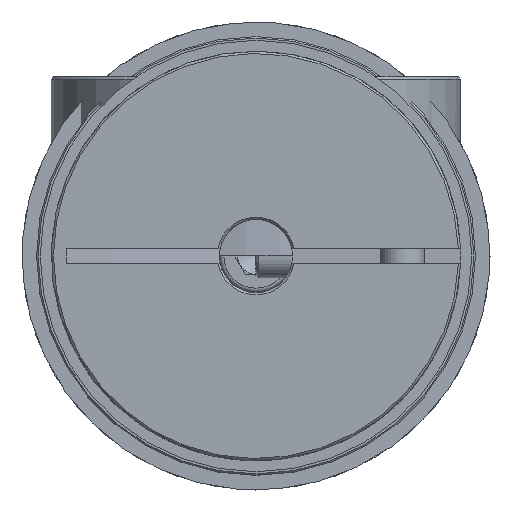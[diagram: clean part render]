
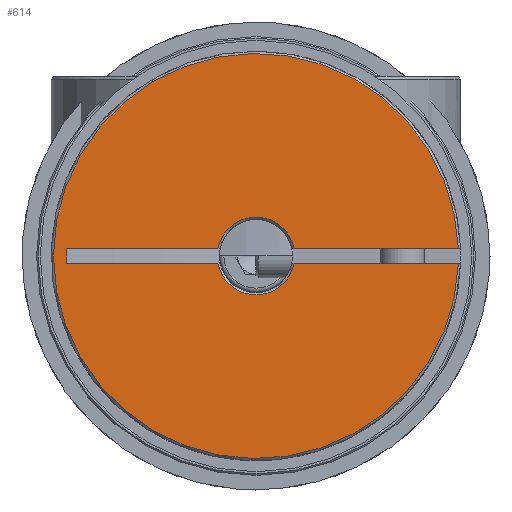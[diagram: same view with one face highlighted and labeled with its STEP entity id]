
A CAD part, left-side view. The second image highlights one B-rep face of the part: STEP entity #614.
In plain terms, the highlighted planar face has unit normal (-1, 0, 0) as drawn and (0, 0, 1) by its records, which use the part's own axes.
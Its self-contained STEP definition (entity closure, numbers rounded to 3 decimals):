
#614 = ADVANCED_FACE( 'NONE', ( #1127 ), #1128, .T. );
#1127 = FACE_OUTER_BOUND( '', #1587, .T. );
#1128 = PLANE( '', #1588 );
#1587 = EDGE_LOOP( '', ( #2505, #2506, #2507, #2508, #2509, #2510, #2511, #2512 ) );
#1588 = AXIS2_PLACEMENT_3D( '', #2513, #2514, #2515 );
#2505 = ORIENTED_EDGE( '', *, *, #2931, .F. );
#2506 = ORIENTED_EDGE( '', *, *, #2884, .T. );
#2507 = ORIENTED_EDGE( '', *, *, #2930, .T. );
#2508 = ORIENTED_EDGE( '', *, *, #2925, .T. );
#2509 = ORIENTED_EDGE( '', *, *, #2927, .T. );
#2510 = ORIENTED_EDGE( '', *, *, #2929, .F. );
#2511 = ORIENTED_EDGE( '', *, *, #2917, .F. );
#2512 = ORIENTED_EDGE( '', *, *, #2920, .T. );
#2513 = CARTESIAN_POINT( '', ( 0., 0., 24.5 ) );
#2514 = DIRECTION( '', ( 0., 0., 1. ) );
#2515 = DIRECTION( '', ( 1., 0., 0. ) );
#2884 = EDGE_CURVE( 'NONE', #3334, #3332, #3335, .T. );
#2917 = EDGE_CURVE( 'NONE', #3393, #3395, #3396, .F. );
#2920 = EDGE_CURVE( 'NONE', #3393, #3398, #3400, .F. );
#2925 = EDGE_CURVE( 'NONE', #3406, #3404, #3407, .F. );
#2927 = EDGE_CURVE( 'NONE', #3404, #3409, #3410, .T. );
#2929 = EDGE_CURVE( 'NONE', #3395, #3409, #3412, .F. );
#2930 = EDGE_CURVE( 'NONE', #3332, #3406, #3413, .T. );
#2931 = EDGE_CURVE( 'NONE', #3334, #3398, #3414, .F. );
#3332 = VERTEX_POINT( 'NONE', #4308 );
#3334 = VERTEX_POINT( 'NONE', #4313 );
#3335 = CIRCLE( '', #4314, 27.7 );
#3393 = VERTEX_POINT( 'NONE', #4532 );
#3395 = VERTEX_POINT( 'NONE', #4537 );
#3396 = LINE( '', #4538, #4539 );
#3398 = VERTEX_POINT( 'NONE', #4541 );
#3400 = CIRCLE( '', #4546, 5.3 );
#3404 = VERTEX_POINT( 'NONE', #4552 );
#3406 = VERTEX_POINT( 'NONE', #4557 );
#3407 = CIRCLE( '', #4558, 5.3 );
#3409 = VERTEX_POINT( 'NONE', #4563 );
#3410 = LINE( '', #4564, #4565 );
#3412 = LINE( '', #4567, #4568 );
#3413 = LINE( '', #4569, #4570 );
#3414 = LINE( '', #4571, #4572 );
#4308 = CARTESIAN_POINT( '', ( 27.682, -1., 24.5 ) );
#4313 = CARTESIAN_POINT( '', ( 27.682, 1., 24.5 ) );
#4314 = AXIS2_PLACEMENT_3D( '', #4982, #4983, #4984 );
#4532 = CARTESIAN_POINT( '', ( -5.205, 1., 24.5 ) );
#4537 = CARTESIAN_POINT( '', ( -25.849, 1., 24.5 ) );
#4538 = CARTESIAN_POINT( '', ( 17., 1., 24.5 ) );
#4539 = VECTOR( '', #5042, 1000. );
#4541 = CARTESIAN_POINT( '', ( 5.205, 1., 24.5 ) );
#4546 = AXIS2_PLACEMENT_3D( '', #5046, #5047, #5048 );
#4552 = CARTESIAN_POINT( '', ( -5.205, -1., 24.5 ) );
#4557 = CARTESIAN_POINT( '', ( 5.205, -1., 24.5 ) );
#4558 = AXIS2_PLACEMENT_3D( '', #5054, #5055, #5056 );
#4563 = CARTESIAN_POINT( '', ( -25.849, -1., 24.5 ) );
#4564 = CARTESIAN_POINT( '', ( 0., -1., 24.5 ) );
#4565 = VECTOR( '', #5057, 1000. );
#4567 = CARTESIAN_POINT( '', ( -25.849, -1., 24.5 ) );
#4568 = VECTOR( '', #5061, 1000. );
#4569 = CARTESIAN_POINT( '', ( 0., -1., 24.5 ) );
#4570 = VECTOR( '', #5062, 1000. );
#4571 = CARTESIAN_POINT( '', ( 17., 1., 24.5 ) );
#4572 = VECTOR( '', #5063, 1000. );
#4982 = CARTESIAN_POINT( '', ( 0., 0., 24.5 ) );
#4983 = DIRECTION( '', ( 0., 0., 1. ) );
#4984 = DIRECTION( '', ( 1., 0., 0. ) );
#5042 = DIRECTION( '', ( 1., 0., 0. ) );
#5046 = CARTESIAN_POINT( '', ( 0., 0., 24.5 ) );
#5047 = DIRECTION( '', ( 0., 0., 1. ) );
#5048 = DIRECTION( '', ( 1., 0., 0. ) );
#5054 = CARTESIAN_POINT( '', ( 0., 0., 24.5 ) );
#5055 = DIRECTION( '', ( 0., 0., 1. ) );
#5056 = DIRECTION( '', ( 1., 0., 0. ) );
#5057 = DIRECTION( '', ( -1., 0., 0. ) );
#5061 = DIRECTION( '', ( 0., 1., 0. ) );
#5062 = DIRECTION( '', ( -1., 0., 0. ) );
#5063 = DIRECTION( '', ( 1., 0., 0. ) );
